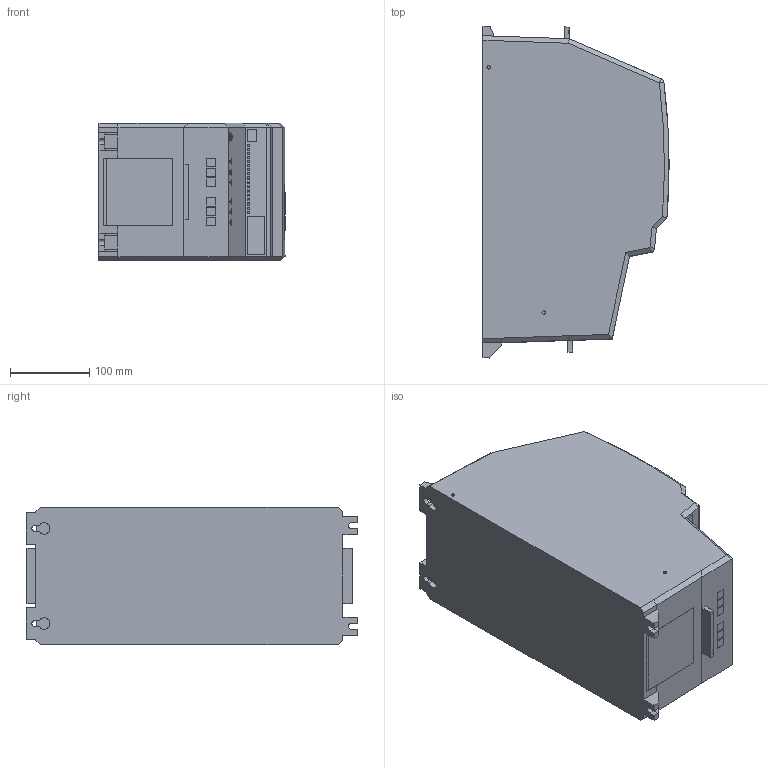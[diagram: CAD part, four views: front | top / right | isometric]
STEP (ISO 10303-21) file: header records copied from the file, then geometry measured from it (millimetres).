
FILE_DESCRIPTION (( 'STEP AP214' ), '1' );
FILE_NAME ('P2 S4 IP20.STEP', '2017-08-15T13:35:53', ( '' ), ( '' ), 'SwSTEP 2.0', 'SolidWorks 2017', '' );
FILE_SCHEMA (( 'AUTOMOTIVE_DESIGN' ));
Length unit declared in the file: millimetre
Products named in the file (1): P2 S4 IP20
Bounding box: 234.81 x 418.77 x 174 mm (x, y, z)
Volume: 13557333 mm3; surface area: 370346.1 mm2
Topology: 1 solids, 1 shells, 1071 faces, 2814 edges, 1881 vertices
Faces by surface type: plane 726, bspline 256, cylinder 82, cone 7
Entity records: 45936 total; most frequent: CARTESIAN_POINT 21467, ORIENTED_EDGE 5628, DIRECTION 3879, EDGE_CURVE 2814, VECTOR 1999, LINE 1999, VERTEX_POINT 1881, EDGE_LOOP 1211
